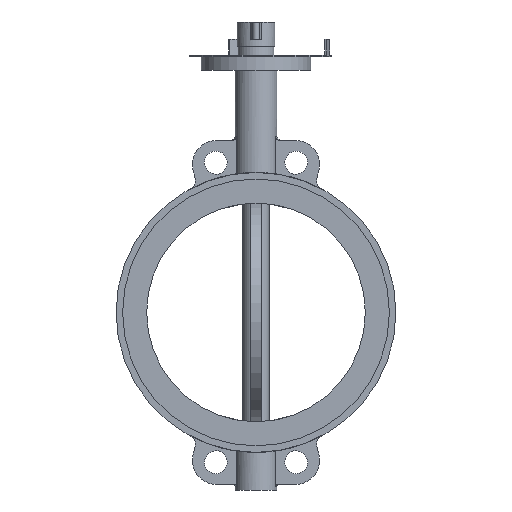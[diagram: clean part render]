
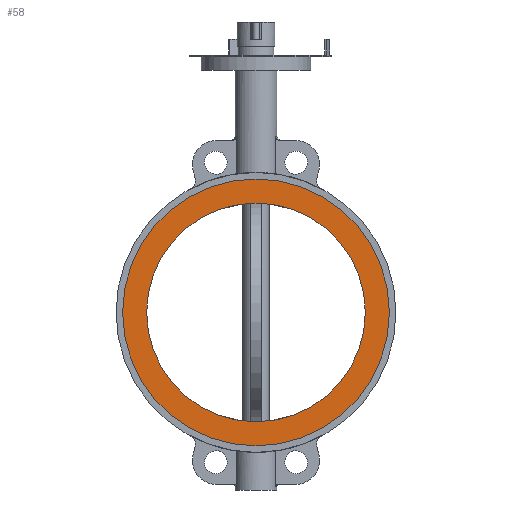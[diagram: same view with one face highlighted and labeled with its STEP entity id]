
A CAD part, left-side view. The second image highlights one B-rep face of the part: STEP entity #58.
In plain terms, the highlighted planar face has unit normal (-1, 0, 0).
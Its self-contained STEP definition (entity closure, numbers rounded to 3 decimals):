
#58=ADVANCED_FACE('',(#7078,#7080),#7082,.F.);
#7078=FACE_BOUND('',#7079,.T.);
#7079=EDGE_LOOP('',(#12664));
#7080=FACE_BOUND('',#7081,.T.);
#7081=EDGE_LOOP('',(#12665));
#7082=PLANE('',#7083);
#7083=AXIS2_PLACEMENT_3D('',#7084,#7085,#7086);
#7084=CARTESIAN_POINT('',(-34.,0.,0.));
#7085=DIRECTION('',(1.,0.,0.));
#7086=DIRECTION('',(0.,1.,0.));
#12664=ORIENTED_EDGE('',*,*,#17187,.T.);
#12665=ORIENTED_EDGE('',*,*,#17188,.T.);
#17187=EDGE_CURVE('',#19480,#19480,#19481,.F.);
#17188=EDGE_CURVE('',#19482,#19482,#19483,.T.);
#19480=VERTEX_POINT('',#23264);
#19481=CIRCLE('',#23265,152.5);
#19482=VERTEX_POINT('',#23269);
#19483=CIRCLE('',#23270,125.);
#23264=CARTESIAN_POINT('',(-34.,152.5,0.));
#23265=AXIS2_PLACEMENT_3D('',#23266,#23267,#23268);
#23266=CARTESIAN_POINT('',(-34.,0.,0.));
#23267=DIRECTION('',(1.,0.,0.));
#23268=DIRECTION('',(0.,1.,0.));
#23269=CARTESIAN_POINT('',(-34.,125.,0.));
#23270=AXIS2_PLACEMENT_3D('',#23271,#23272,#23273);
#23271=CARTESIAN_POINT('',(-34.,0.,0.));
#23272=DIRECTION('',(1.,0.,0.));
#23273=DIRECTION('',(0.,1.,0.));
